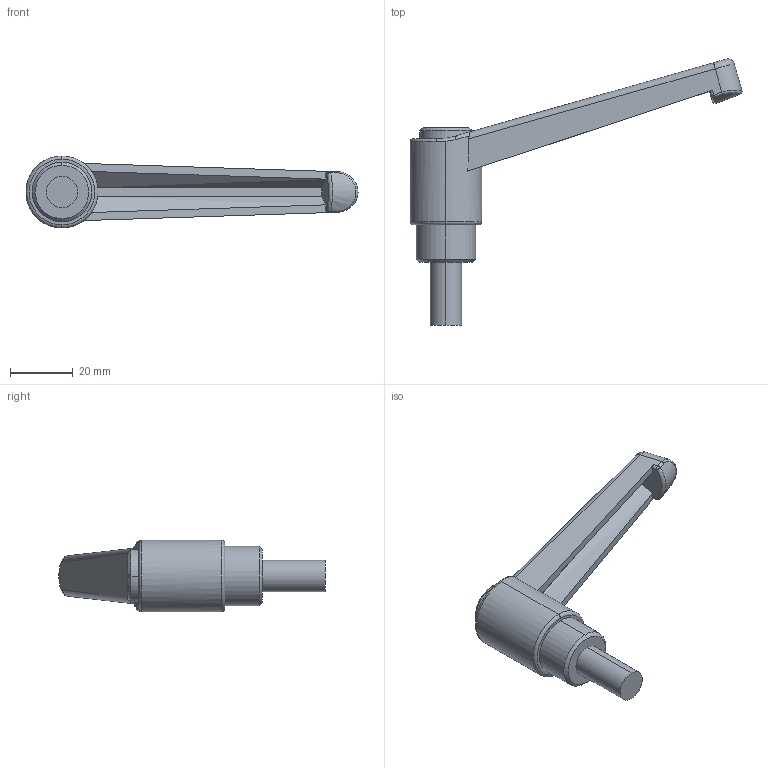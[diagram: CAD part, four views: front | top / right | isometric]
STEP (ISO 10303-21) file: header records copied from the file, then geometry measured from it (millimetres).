
FILE_DESCRIPTION (( 'STEP AP203' ), '1' );
FILE_NAME ('A-404-92-M10.STEP', '2015-11-21T18:11:56', ( '' ), ( '' ), 'SwSTEP 2.0', 'SolidWorks 2014', '' );
FILE_SCHEMA (( 'CONFIG_CONTROL_DESIGN' ));
Length unit declared in the file: millimetre
Products named in the file (1): A-404-92-M10
Bounding box: 106.06 x 85.02 x 23 mm (x, y, z)
Volume: 27877.4 mm3; surface area: 9435.5 mm2
Topology: 1 solids, 1 shells, 57 faces, 134 edges, 82 vertices
Faces by surface type: cylinder 17, plane 17, bspline 11, torus 4, cone 4, sphere 4
Entity records: 2159 total; most frequent: CARTESIAN_POINT 866, ORIENTED_EDGE 268, DIRECTION 241, EDGE_CURVE 134, AXIS2_PLACEMENT_3D 101, VERTEX_POINT 82, EDGE_LOOP 60, ADVANCED_FACE 57
